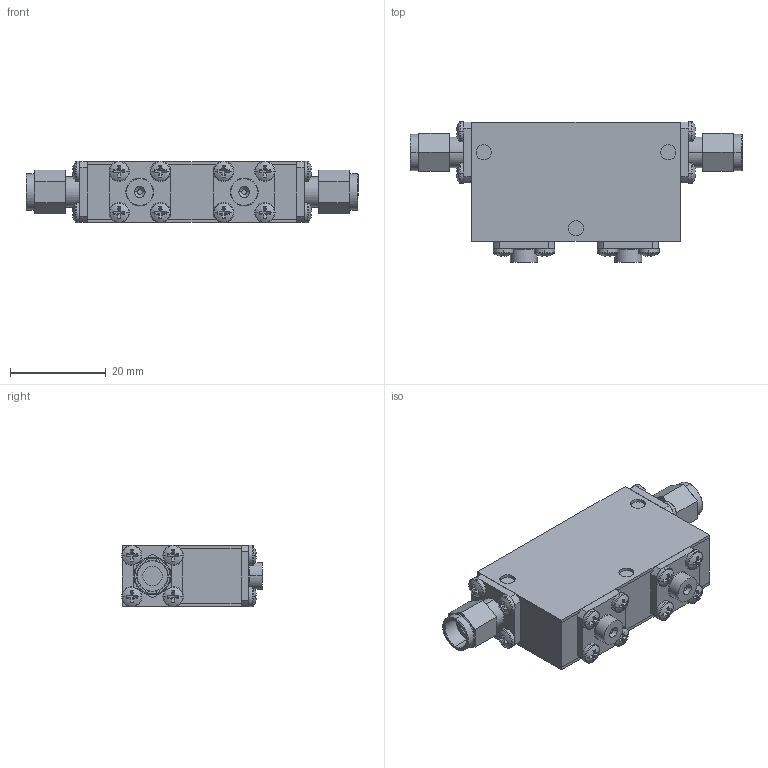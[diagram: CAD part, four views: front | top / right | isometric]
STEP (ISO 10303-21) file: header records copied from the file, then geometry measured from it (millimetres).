
FILE_DESCRIPTION (( 'STEP AP214' ), '1' );
FILE_NAME ('Package 19 Iso MM.step', '2021-12-01T20:59:16', ( '' ), ( '' ), 'SwSTEP 2.0', 'SolidWorks 2016', '' );
FILE_SCHEMA (( 'AUTOMOTIVE_DESIGN' ));
Length unit declared in the file: inch
Products named in the file (6): Package 19 Iso MM; pan cross head_ai_CR-PHMS 0.086-56x0.125x0.125-N; Delta SMA-Male; 030013-1A Same Base thickness as connectors; Package Size 19; Package 19
Assembly tree (22 placements, depth 2):
  Package 19 Iso MM
    Package 19
    pan cross head_ai_CR-PHMS 0.086-56x0.125x0.125-N  x16
    030013-1A Same Base thickness as connectors  x2
    Delta SMA-Male  x2
    Package Size 19
Bounding box: 69.44 x 29.43 x 12.88 mm (x, y, z)
Volume: 15809.8 mm3; surface area: 12936.6 mm2
Topology: 22 solids, 22 shells, 554 faces, 1260 edges, 776 vertices
Faces by surface type: plane 314, cylinder 152, torus 48, sphere 32, cone 8
Entity records: 4324 total; most frequent: DIRECTION 784, CARTESIAN_POINT 673, ORIENTED_EDGE 632, EDGE_CURVE 316, AXIS2_PLACEMENT_3D 313, VERTEX_POINT 202, EDGE_LOOP 168, VECTOR 158
